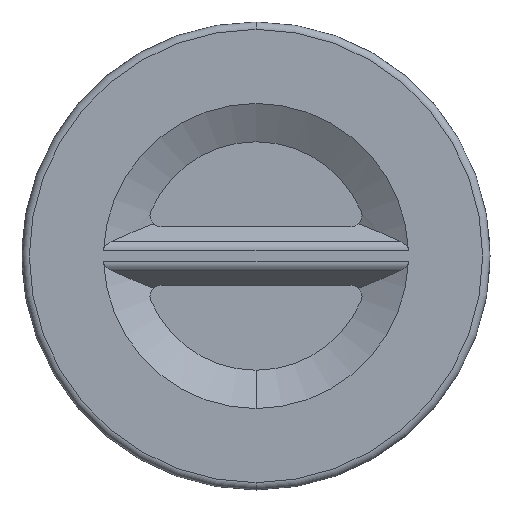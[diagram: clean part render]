
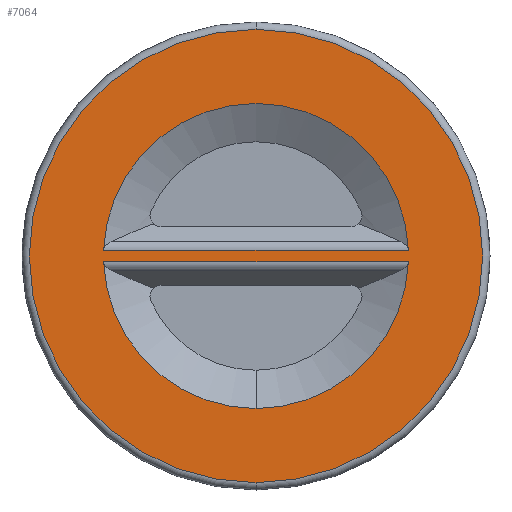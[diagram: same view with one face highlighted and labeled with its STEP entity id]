
A CAD part, front view. The second image highlights one B-rep face of the part: STEP entity #7064.
In plain terms, the highlighted planar face has unit normal (0, -1, 0).
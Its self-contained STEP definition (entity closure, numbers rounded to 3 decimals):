
#139 = DIRECTION ( 'NONE',  ( 0., 0., -1. ) ) ;
#317 = VERTEX_POINT ( 'NONE', #9020 ) ;
#602 = VERTEX_POINT ( 'NONE', #3759 ) ;
#652 = CIRCLE ( 'NONE', #6536, 41.392 ) ;
#830 = CARTESIAN_POINT ( 'NONE',  ( -41.362, 0., -1.586 ) ) ;
#938 = ORIENTED_EDGE ( 'NONE', *, *, #2981, .T. ) ;
#979 = LINE ( 'NONE', #9267, #3195 ) ;
#1124 = DIRECTION ( 'NONE',  ( 0., -1., 0. ) ) ;
#1326 = VERTEX_POINT ( 'NONE', #6751 ) ;
#1349 = AXIS2_PLACEMENT_3D ( 'NONE', #3342, #3294, #3391 ) ;
#1518 = AXIS2_PLACEMENT_3D ( 'NONE', #5745, #4761, #8701 ) ;
#1595 = AXIS2_PLACEMENT_3D ( 'NONE', #3295, #7982, #4835 ) ;
#1643 = CARTESIAN_POINT ( 'NONE',  ( 41.362, 0., -1.586 ) ) ;
#1677 = PLANE ( 'NONE',  #9740 ) ;
#1871 = FACE_BOUND ( 'NONE', #6162, .T. ) ;
#2166 = ORIENTED_EDGE ( 'NONE', *, *, #6476, .F. ) ;
#2576 = DIRECTION ( 'NONE',  ( 1., 0., 0. ) ) ;
#2815 = VERTEX_POINT ( 'NONE', #4576 ) ;
#2818 = DIRECTION ( 'NONE',  ( 0., 0., -1. ) ) ;
#2981 = EDGE_CURVE ( 'NONE', #2815, #5609, #6620, .T. ) ;
#3195 = VECTOR ( 'NONE', #5507, 1000. ) ;
#3294 = DIRECTION ( 'NONE',  ( 0., -1., 0. ) ) ;
#3295 = CARTESIAN_POINT ( 'NONE',  ( 0., 0., 0. ) ) ;
#3321 = FACE_OUTER_BOUND ( 'NONE', #6577, .T. ) ;
#3342 = CARTESIAN_POINT ( 'NONE',  ( 0., 0., 0. ) ) ;
#3391 = DIRECTION ( 'NONE',  ( 0., 0., -1. ) ) ;
#3409 = CIRCLE ( 'NONE', #1349, 41.392 ) ;
#3586 = EDGE_CURVE ( 'NONE', #3752, #6583, #6374, .T. ) ;
#3752 = VERTEX_POINT ( 'NONE', #830 ) ;
#3759 = CARTESIAN_POINT ( 'NONE',  ( 41.362, 0., 1.586 ) ) ;
#4576 = CARTESIAN_POINT ( 'NONE',  ( 0., 0., -61.5 ) ) ;
#4761 = DIRECTION ( 'NONE',  ( 0., -1., 0. ) ) ;
#4835 = DIRECTION ( 'NONE',  ( 0., 0., -1. ) ) ;
#4904 = CARTESIAN_POINT ( 'NONE',  ( 0., 0., 0. ) ) ;
#4905 = AXIS2_PLACEMENT_3D ( 'NONE', #6764, #8352, #139 ) ;
#5206 = DIRECTION ( 'NONE',  ( 0., -1., 0. ) ) ;
#5360 = EDGE_CURVE ( 'NONE', #3752, #317, #652, .T. ) ;
#5507 = DIRECTION ( 'NONE',  ( 1., 0., 0. ) ) ;
#5609 = VERTEX_POINT ( 'NONE', #7399 ) ;
#5745 = CARTESIAN_POINT ( 'NONE',  ( 0., 0., 0. ) ) ;
#5956 = CARTESIAN_POINT ( 'NONE',  ( 0., 0., 0. ) ) ;
#6079 = ORIENTED_EDGE ( 'NONE', *, *, #7077, .F. ) ;
#6162 = EDGE_LOOP ( 'NONE', ( #7202, #8223, #9273 ) ) ;
#6269 = DIRECTION ( 'NONE',  ( 0., 0., -1. ) ) ;
#6342 = EDGE_LOOP ( 'NONE', ( #2166, #6079 ) ) ;
#6374 = LINE ( 'NONE', #9419, #8628 ) ;
#6476 = EDGE_CURVE ( 'NONE', #602, #1326, #3409, .T. ) ;
#6536 = AXIS2_PLACEMENT_3D ( 'NONE', #5956, #5206, #2818 ) ;
#6577 = EDGE_LOOP ( 'NONE', ( #938, #8031 ) ) ;
#6583 = VERTEX_POINT ( 'NONE', #1643 ) ;
#6620 = CIRCLE ( 'NONE', #1518, 61.5 ) ;
#6751 = CARTESIAN_POINT ( 'NONE',  ( -41.362, 0., 1.586 ) ) ;
#6764 = CARTESIAN_POINT ( 'NONE',  ( 0., 0., 0. ) ) ;
#6833 = CIRCLE ( 'NONE', #4905, 61.5 ) ;
#7064 = ADVANCED_FACE ( 'NONE', ( #3321, #1871, #9410 ), #1677, .T. ) ;
#7077 = EDGE_CURVE ( 'NONE', #1326, #602, #979, .T. ) ;
#7202 = ORIENTED_EDGE ( 'NONE', *, *, #3586, .T. ) ;
#7399 = CARTESIAN_POINT ( 'NONE',  ( 0., 0., 61.5 ) ) ;
#7435 = EDGE_CURVE ( 'NONE', #317, #6583, #9561, .T. ) ;
#7982 = DIRECTION ( 'NONE',  ( 0., -1., 0. ) ) ;
#8031 = ORIENTED_EDGE ( 'NONE', *, *, #9199, .T. ) ;
#8223 = ORIENTED_EDGE ( 'NONE', *, *, #7435, .F. ) ;
#8352 = DIRECTION ( 'NONE',  ( 0., -1., 0. ) ) ;
#8628 = VECTOR ( 'NONE', #2576, 1000. ) ;
#8701 = DIRECTION ( 'NONE',  ( 0., 0., -1. ) ) ;
#9020 = CARTESIAN_POINT ( 'NONE',  ( 0., 0., -41.392 ) ) ;
#9199 = EDGE_CURVE ( 'NONE', #5609, #2815, #6833, .T. ) ;
#9267 = CARTESIAN_POINT ( 'NONE',  ( -500000., 0., 1.586 ) ) ;
#9273 = ORIENTED_EDGE ( 'NONE', *, *, #5360, .F. ) ;
#9410 = FACE_BOUND ( 'NONE', #6342, .T. ) ;
#9419 = CARTESIAN_POINT ( 'NONE',  ( -500000., 0., -1.586 ) ) ;
#9561 = CIRCLE ( 'NONE', #1595, 41.392 ) ;
#9740 = AXIS2_PLACEMENT_3D ( 'NONE', #4904, #1124, #6269 ) ;
